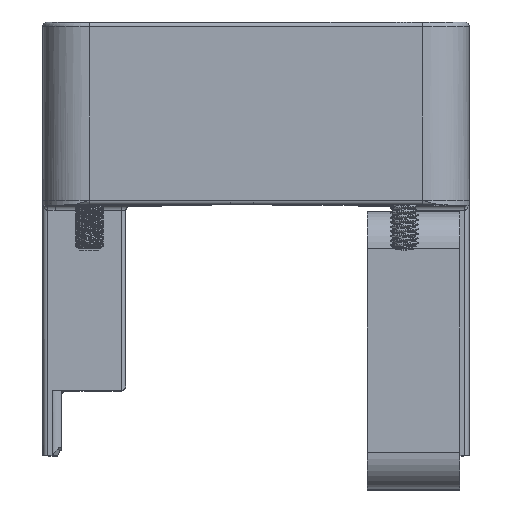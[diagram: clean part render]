
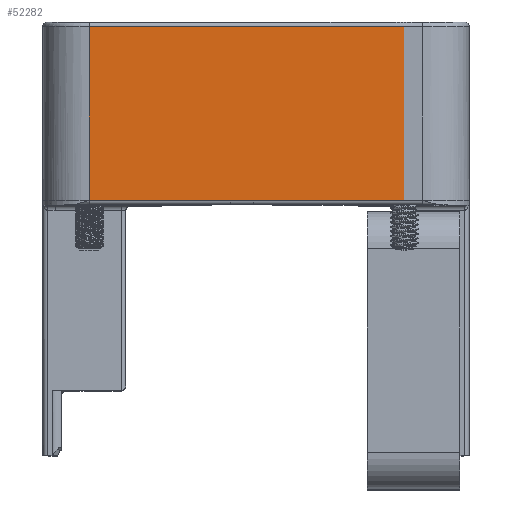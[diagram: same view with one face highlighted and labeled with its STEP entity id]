
A CAD part, top view. The second image highlights one B-rep face of the part: STEP entity #52282.
In plain terms, the highlighted planar face has unit normal (0, 0, 1).
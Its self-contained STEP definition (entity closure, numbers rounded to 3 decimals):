
#2934=PLANE('',#55783);
#4053=FACE_OUTER_BOUND('',#7242,.T.);
#7242=EDGE_LOOP('',(#34751,#34752,#34753,#34754));
#10595=LINE('',#77604,#14464);
#10599=LINE('',#77619,#14468);
#10637=LINE('',#77914,#14506);
#10639=LINE('',#77922,#14508);
#14464=VECTOR('',#61848,10.);
#14468=VECTOR('',#61862,10.);
#14506=VECTOR('',#61986,10.);
#14508=VECTOR('',#61998,10.);
#21031=VERTEX_POINT('',#77500);
#21050=VERTEX_POINT('',#77551);
#21073=VERTEX_POINT('',#77603);
#21079=VERTEX_POINT('',#77617);
#26237=EDGE_CURVE('',#21050,#21073,#10595,.T.);
#26245=EDGE_CURVE('',#21079,#21050,#10599,.T.);
#26317=EDGE_CURVE('',#21031,#21079,#10637,.T.);
#26322=EDGE_CURVE('',#21073,#21031,#10639,.T.);
#34751=ORIENTED_EDGE('',*,*,#26317,.F.);
#34752=ORIENTED_EDGE('',*,*,#26322,.F.);
#34753=ORIENTED_EDGE('',*,*,#26237,.F.);
#34754=ORIENTED_EDGE('',*,*,#26245,.F.);
#52282=ADVANCED_FACE('',(#4053),#2934,.T.);
#55783=AXIS2_PLACEMENT_3D('',#77923,#61999,#62000);
#61848=DIRECTION('',(-1.,0.,0.));
#61862=DIRECTION('',(0.,-1.,0.));
#61986=DIRECTION('',(1.,0.,0.));
#61998=DIRECTION('',(0.,1.,0.));
#61999=DIRECTION('center_axis',(0.,0.,
1.));
#62000=DIRECTION('ref_axis',(1.,0.,0.));
#77500=CARTESIAN_POINT('',(-18.422,66.317,25.186));
#77551=CARTESIAN_POINT('',(17.578,47.567,25.186));
#77603=CARTESIAN_POINT('',(-18.422,47.567,25.186));
#77604=CARTESIAN_POINT('',(-11.187,47.567,25.186));
#77617=CARTESIAN_POINT('',(17.578,66.317,25.186));
#77619=CARTESIAN_POINT('',(17.578,48.067,25.186));
#77914=CARTESIAN_POINT('',(-11.922,66.317,25.186));
#77922=CARTESIAN_POINT('',(-18.422,48.067,25.186));
#77923=CARTESIAN_POINT('Origin',(-23.422,48.067,25.186));
